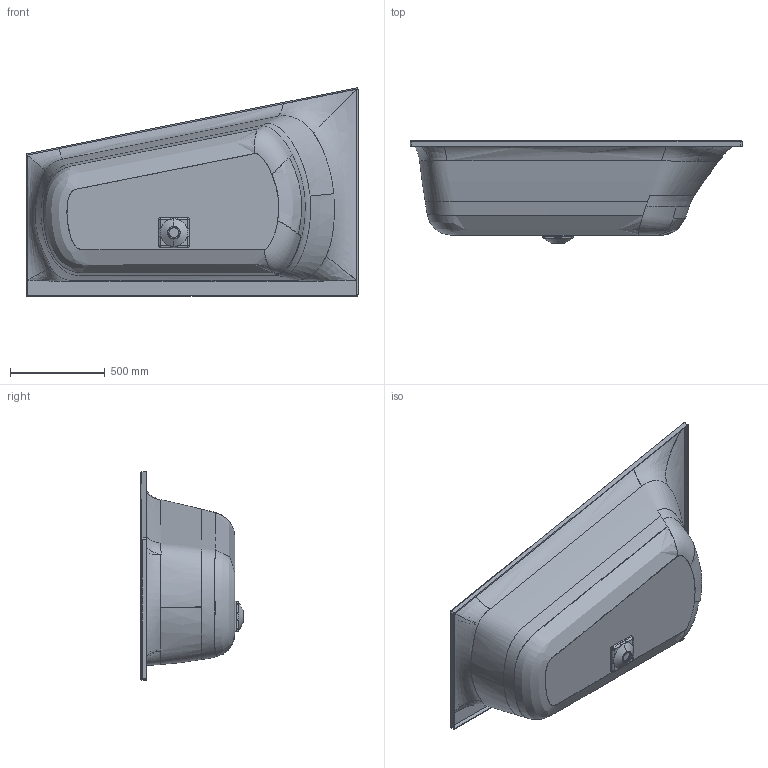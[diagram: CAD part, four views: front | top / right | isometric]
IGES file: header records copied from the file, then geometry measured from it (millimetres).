
Start section: SolidWorks IGES file using analytic representation for surfaces
Global section: file name: D:\Users\M.Szymanski\Desktop\Wanny\Thasos\03. do przegrania\WTP_THASOS_110x175.IGS; native system: SolidWorks 2011; preprocessor: SolidWorks 2011; author: M.Szymanski; date: 180427.130140; units: millimetre
Bounding box: 1750 x 539 x 1098.26 mm (x, y, z)
Surface area: 6235137.3 mm2 (no closed solid volume)
Topology: 0 solids, 0 shells, 213 faces, 3801 edges, 3796 vertices
Faces by surface type: bspline 158, revolution 55
